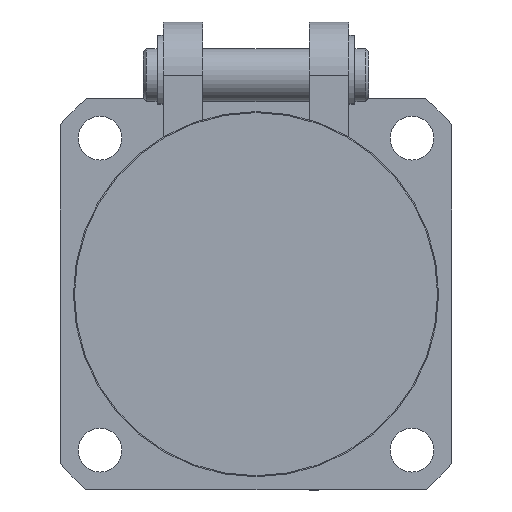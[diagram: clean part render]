
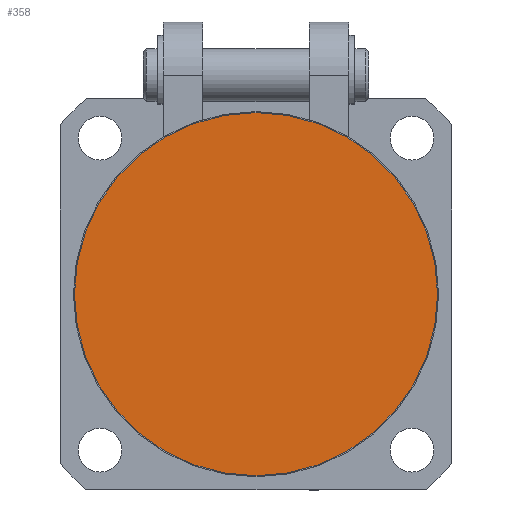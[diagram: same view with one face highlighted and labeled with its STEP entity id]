
A CAD part, front view. The second image highlights one B-rep face of the part: STEP entity #358.
In plain terms, the highlighted planar face has unit normal (0, -1, 0).
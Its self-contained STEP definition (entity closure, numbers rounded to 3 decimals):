
#358 = ADVANCED_FACE( '', ( #749 ), #750, .T. );
#749 = FACE_OUTER_BOUND( '', #1357, .T. );
#750 = PLANE( '', #1358 );
#1357 = EDGE_LOOP( '', ( #2362 ) );
#1358 = AXIS2_PLACEMENT_3D( '', #2363, #2364, #2365 );
#2362 = ORIENTED_EDGE( '', *, *, #3894, .T. );
#2363 = CARTESIAN_POINT( '', ( 0., -57.5, 0. ) );
#2364 = DIRECTION( '', ( 0., -1., 0. ) );
#2365 = DIRECTION( '', ( 1., 0., 0. ) );
#3894 = EDGE_CURVE( '', #4631, #4631, #4632, .T. );
#4631 = VERTEX_POINT( '', #5856 );
#4632 = CIRCLE( '', #5857, 27.35 );
#5856 = CARTESIAN_POINT( '', ( -27.35, -57.5, 0. ) );
#5857 = AXIS2_PLACEMENT_3D( '', #7103, #7104, #7105 );
#7103 = CARTESIAN_POINT( '', ( 0., -57.5, 0. ) );
#7104 = DIRECTION( '', ( 0., -1., 0. ) );
#7105 = DIRECTION( '', ( -1., 0., 0. ) );
